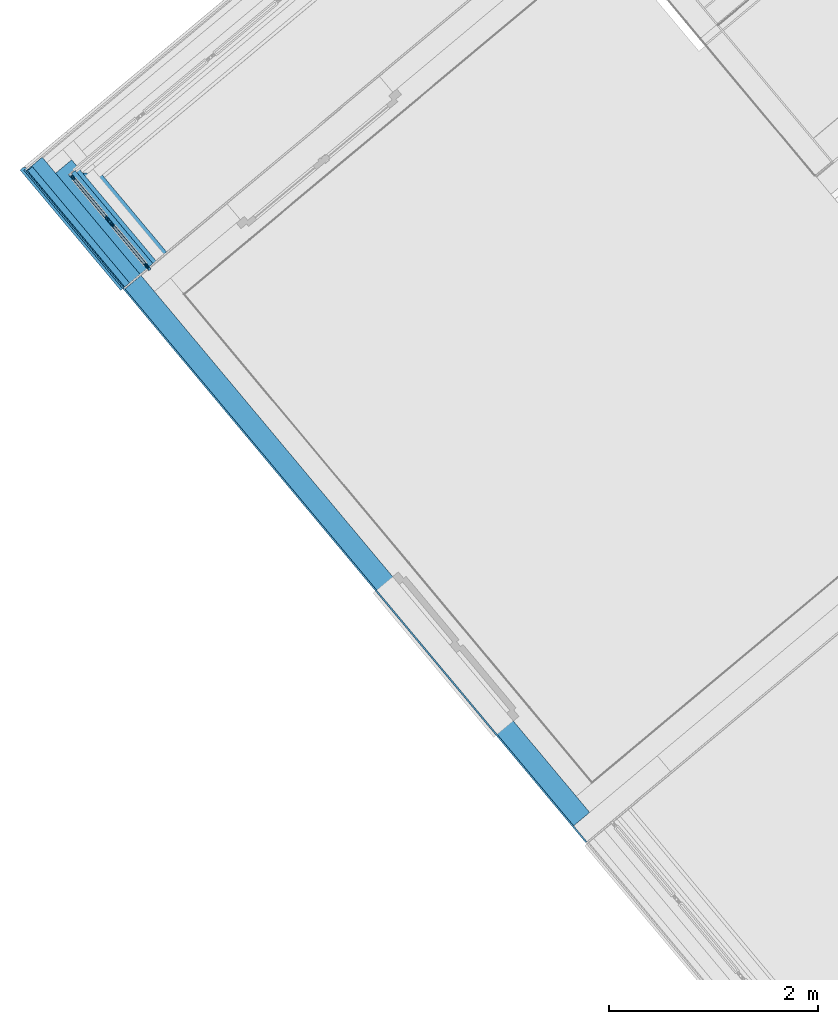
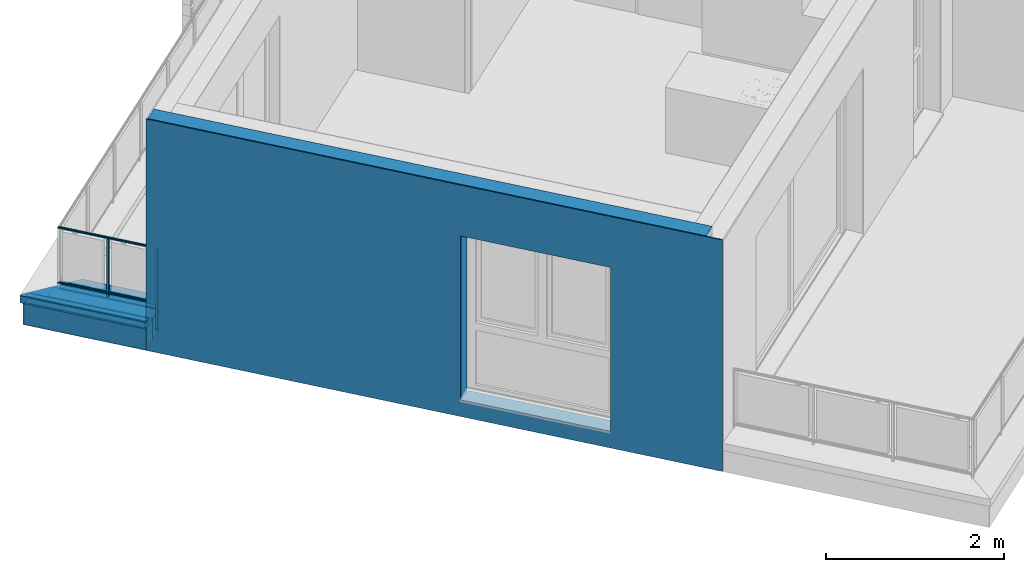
# One storey, part 11 of 47: 12 building element parts, 1 opening, 3 elements without a shape of their own.
"""IFC4 building model written with IfcOpenShell, lengths in metres."""

from ifc_helpers import new_model, entity, si_unit, converted_unit, derived_unit, direction, frame, origin_with_axes, place, context, subcontext, project, spatial, polygons, material, type_object, element, aggregate, save


model = new_model("IFC4")

# Units and contexts
model_context = context("Model", 3, precision=1e-05, world=origin_with_axes(), true_north=direction((0.0, 1.0)))
body_context = subcontext(model_context, "Body", "Model", "MODEL_VIEW")
ifc_project = project(units=[si_unit("LENGTHUNIT", "METRE"), si_unit("AREAUNIT", "SQUARE_METRE"), si_unit("VOLUMEUNIT", "CUBIC_METRE"), converted_unit("PLANEANGLEUNIT", "DEGREE", entity("IfcPlaneAngleMeasure", 0.0174532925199), si_unit("PLANEANGLEUNIT", "RADIAN"), dimensions=[0, 0, 0, 0, 0, 0, 0]), converted_unit("TIMEUNIT", "Year", entity("IfcTimeMeasure", 31556926.0), si_unit("TIMEUNIT", "SECOND"), dimensions=[0, 0, 1, 0, 0, 0, 0]), si_unit("MASSUNIT", "GRAM", prefix="KILO"), si_unit("THERMODYNAMICTEMPERATUREUNIT", "DEGREE_CELSIUS"), si_unit("LUMINOUSINTENSITYUNIT", "LUMEN"), si_unit("ENERGYUNIT", "JOULE", prefix="MEGA"), derived_unit("THERMALCONDUCTANCEUNIT", [(si_unit("POWERUNIT", "WATT"), 1), (si_unit("LENGTHUNIT", "METRE"), -1), (si_unit("THERMODYNAMICTEMPERATUREUNIT", "KELVIN"), -1)]), derived_unit("SPECIFICHEATCAPACITYUNIT", [(si_unit("ENERGYUNIT", "JOULE"), 1), (si_unit("MASSUNIT", "GRAM", prefix="KILO"), -1), (si_unit("THERMODYNAMICTEMPERATUREUNIT", "KELVIN"), -1)]), derived_unit("MASSDENSITYUNIT", [(si_unit("MASSUNIT", "GRAM", prefix="KILO"), 1), (si_unit("VOLUMEUNIT", "CUBIC_METRE"), -1)])], contexts=[model_context])

# Site, building, storey
site_placement = place(None, frame((-0.00153261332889, -0.00661245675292, 0.0), z_axis=(0.0, 0.0, 1.0), x_axis=(1.0, 0.0, 0.0)))
site = spatial("IfcSite", under=ifc_project, at=site_placement, Name="Site", CompositionType="ELEMENT")
building_placement = place(site_placement, origin_with_axes())
building = spatial("IfcBuilding", under=site, at=building_placement, Name="Building", CompositionType="ELEMENT")
storey_placement = place(building_placement, frame((0.0, 0.0, 8.66), z_axis=(0.0, 0.0, 1.0), x_axis=(1.0, 0.0, 0.0)))
storey = spatial("IfcBuildingStorey", under=building, at=storey_placement, Name="DG2", CompositionType="ELEMENT", Elevation=8.66)

# Wall, opening, building element parts
wall_type_1 = type_object("IfcWallType", Name="AW EG 420", PredefinedType="NOTDEFINED")
wall_1_placement = place(storey_placement, frame((-7.73758680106, 17.8868192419, 0.0), z_axis=(0.0, 0.0, 1.0), x_axis=(0.641209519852, -0.767365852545, 0.0)))
wall_1 = element("IfcWall", 1, at=wall_1_placement, inside=storey, type_object=wall_type_1, Name="Wand-002", PredefinedType="NOTDEFINED")
opening_placement = place(wall_1_placement, frame((4.66869995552, 0.0, 0.22), z_axis=(0.0, 0.0, 1.0), x_axis=(1.0, 0.0, 0.0)))
element("IfcOpeningElement", 2, at=opening_placement, cuts=wall_1, Name="Fenster-001", context=body_context, identifier="Reference", shape_type="Tessellation", body=[
    polygons([(0.9, 0.215, 0.0), (0.9, 0.215, 2.26), (0.9, -3.40708164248, 2.26), (0.9, -3.40708164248, 0.0), (0.9, 3.82708164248, 0.0), (0.9, 3.82708164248, 2.26), (-0.9, 0.215, 2.26), (-0.9, -3.40708164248, 2.26), (-0.9, 3.82708164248, 2.26), (-0.9, -3.40708164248, 0.0), (-0.9, 0.215, 0.0), (-0.9, 3.82708164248, 0.0)], [[[1, 2, 3, 4]], [[2, 1, 5, 6]], [[7, 8, 3, 2, 6, 9]], [[8, 10, 4, 3]], [[1, 4, 10, 11, 12, 5]], [[6, 5, 12, 9]], [[7, 11, 10, 8]], [[11, 7, 9, 12]]], closed=True),
])
ifc_material_1 = material(Name="EPS 1")
building_element_part_1_placement = place(wall_1_placement, origin_with_axes())
building_element_part_1 = element("IfcBuildingElementPart", 3, at=building_element_part_1_placement, material=ifc_material_1, Name="EPS 1", PredefinedType="NOTDEFINED", context=body_context, shape_type="Tessellation", body=[
    polygons([(6.70732534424, 0.015, 3.18), (0.0149999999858, 0.015, 3.18), (0.0149999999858, 0.015, 0.0), (6.70732534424, 0.015, 0.0), (3.76869995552, 0.015, 0.22), (3.76869995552, 0.015, 2.48), (5.56869995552, 0.015, 2.48), (5.56869995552, 0.015, 0.22), (6.70719509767, 0.215, 3.18), (0.0149999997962, 0.215, 3.18), (0.0149999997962, 0.215, 0.0), (6.70719509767, 0.215, 0.0), (3.76869995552, 0.215, 0.22), (3.76869995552, 0.215, 2.48), (5.56869995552, 0.215, 2.48), (5.56869995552, 0.215, 0.22)], [[[1, 2, 3, 4], [5, 6, 7, 8]], [[9, 10, 2, 1]], [[11, 3, 2, 10]], [[4, 3, 11, 12]], [[12, 9, 1, 4]], [[13, 14, 6, 5]], [[14, 15, 7, 6]], [[15, 16, 8, 7]], [[16, 13, 5, 8]], [[12, 11, 10, 9], [13, 16, 15, 14]]], closed=True),
])
ifc_material_2 = material(Name="Zementputz")
building_element_part_2_placement = place(wall_1_placement, origin_with_axes())
building_element_part_2 = element("IfcBuildingElementPart", 4, at=building_element_part_2_placement, material=ifc_material_2, Name="Zementputz", PredefinedType="NOTDEFINED", context=body_context, shape_type="Tessellation", body=[
    polygons([(6.90733515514, 0.0, 3.18), (0.0, 0.0, 3.18), (0.0, 0.0, 0.0), (6.90733515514, 0.0, 0.0), (3.76869995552, 0.0, 0.22), (3.76869995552, 0.0, 2.48), (5.56869995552, 0.0, 2.48), (5.56869995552, 0.0, 0.22), (6.90732538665, 0.015, 3.18), (0.0, 0.015, 3.18), (0.0, 0.015, 0.0), (6.90732538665, 0.015, 0.0), (3.76869995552, 0.015, 0.22), (3.76869995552, 0.015, 2.48), (5.56869995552, 0.015, 2.48), (5.56869995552, 0.015, 0.22)], [[[1, 2, 3, 4], [5, 6, 7, 8]], [[9, 10, 2, 1]], [[11, 3, 2, 10]], [[4, 3, 11, 12]], [[12, 9, 1, 4]], [[13, 14, 6, 5]], [[14, 15, 7, 6]], [[15, 16, 8, 7]], [[16, 13, 5, 8]], [[12, 11, 10, 9], [13, 16, 15, 14]]], closed=True),
])
aggregate(wall_1, [building_element_part_1, building_element_part_2])

# Wall, building element parts
wall_type_2 = type_object("IfcWallType", Name="Bauteil - Attika Terrasse 1.DG 574 x 410", PredefinedType="NOTDEFINED")
wall_2_placement = place(storey_placement, frame((-7.57260314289, 18.0246792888, -0.2), z_axis=(0.0, 0.0, 1.0), x_axis=(-0.641209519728, 0.767365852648, 0.0)))
wall_2 = element("IfcWall", 5, at=wall_2_placement, inside=storey, type_object=wall_type_2, Name="Wand-004", PredefinedType="NOTDEFINED")
building_element_part_3_placement = place(wall_2_placement, origin_with_axes())
building_element_part_3 = element("IfcBuildingElementPart", 6, at=building_element_part_3_placement, material=ifc_material_2, Name="Zementputz", PredefinedType="NOTDEFINED", context=body_context, shape_type="Tessellation", body=[
    polygons([(1.47453762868, 0.199999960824, 0.2), (1.47453762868, 0.199999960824, 0.499999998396), (0.0, 0.199999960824, 0.499999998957), (0.0, 0.199999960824, 0.2), (1.47453762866, 0.214999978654, 0.2), (1.47453762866, 0.214999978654, 0.499999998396), (0.0, 0.214999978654, 0.499999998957), (0.0, 0.214999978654, 0.2)], [[[1, 2, 3, 4]], [[2, 1, 5, 6]], [[2, 6, 7, 3]], [[4, 3, 7, 8]], [[5, 1, 4, 8]], [[6, 5, 8, 7]]], closed=True),
])
ifc_material_3 = material(Name="Vollholz")
building_element_part_4_placement = place(wall_2_placement, origin_with_axes())
building_element_part_4 = element("IfcBuildingElementPart", 7, at=building_element_part_4_placement, material=ifc_material_3, Name="Vollholz", PredefinedType="NOTDEFINED", context=body_context, shape_type="Tessellation", body=[
    polygons([(1.44953379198, 0.189996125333, 0.584015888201), (1.44953379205, 0.130124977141, 0.584015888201), (1.44957690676, 0.130124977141, 0.575979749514), (1.4495769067, 0.190039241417, 0.575979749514), (1.44952269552, 0.189984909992, 0.58610624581), (0.0, 0.130124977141, 0.584015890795), (0.0, 0.130124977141, 0.560000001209), (1.44966263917, 0.130124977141, 0.559999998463), (1.44961999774, 0.130124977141, 0.567947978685), (1.44958816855, 0.130124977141, 0.573880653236), (1.44958816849, 0.190050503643, 0.573880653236), (1.44961999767, 0.190082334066, 0.567947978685), (1.44966263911, 0.190124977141, 0.559999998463), (0.0, 0.190124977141, 0.560000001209), (0.0, 0.189984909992, 0.586106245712)], [[[1, 2, 3, 4]], [[5, 2, 1]], [[3, 2, 6, 7, 8, 9, 10]], [[4, 3, 10, 11]], [[5, 1, 4, 11, 12, 13, 14, 15]], [[2, 5, 15, 6]], [[6, 15, 14, 7]], [[13, 8, 7, 14]], [[12, 9, 8, 13]], [[11, 10, 9, 12]]], closed=True),
])
building_element_part_5_placement = place(wall_2_placement, origin_with_axes())
building_element_part_5 = element("IfcBuildingElementPart", 8, at=building_element_part_5_placement, material=ifc_material_1, Name="EPS 1", PredefinedType="NOTDEFINED", context=body_context, shape_type="Tessellation", body=[
    polygons([(1.45953762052, 2.39911202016e-10, 0.498822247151), (1.45953762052, 2.39911202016e-10, 0.499999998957), (0.0, 2.39910313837e-10, 0.499999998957), (0.0, 2.39910313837e-10, 0.2), (1.45953762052, 2.39911202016e-10, 0.2), (1.45953762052, 2.39911202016e-10, 0.335), (1.45953762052, 2.39911202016e-10, 0.488695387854), (1.45953762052, 2.39911202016e-10, 0.49100648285), (1.45953762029, 0.19999996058, 0.499999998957), (1.45953762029, 0.19999996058, 0.498822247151), (0.0, 0.19999996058, 0.499999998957), (0.0, 0.19999996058, 0.2), (1.45953762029, 0.19999996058, 0.2), (1.45953762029, 0.19999996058, 0.335), (1.45953762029, 0.19999996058, 0.488695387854), (1.45953762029, 0.19999996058, 0.49100648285)], [[[1, 2, 3, 4, 5, 6, 7, 8]], [[9, 2, 1, 10]], [[2, 9, 11, 3]], [[4, 3, 11, 12]], [[13, 5, 4, 12]], [[14, 6, 5, 13]], [[15, 7, 6, 14]], [[16, 8, 7, 15]], [[10, 1, 8, 16]], [[9, 10, 16, 15, 14, 13, 12, 11]]], closed=True),
])
ifc_material_4 = material(Name="Stahlbeton")
building_element_part_6_placement = place(wall_2_placement, origin_with_axes())
building_element_part_6 = element("IfcBuildingElementPart", 9, at=building_element_part_6_placement, material=ifc_material_4, Name="Stahlbeton", PredefinedType="NOTDEFINED", context=body_context, shape_type="Tessellation", body=[
    polygons([(1.25953766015, -0.199999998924, 0.498822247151), (1.25953766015, -0.199999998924, 0.499999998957), (0.0, -0.199999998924, 0.500000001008), (0.0, -0.199999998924, 0.335000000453), (1.25953766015, -0.199999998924, 0.335), (1.25953766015, -0.199999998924, 0.488695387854), (1.25953766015, -0.199999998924, 0.49100648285), (1.25953765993, -1.82835613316e-09, 0.499999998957), (1.25953765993, -1.82835613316e-09, 0.498822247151), (0.0, -1.82835524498e-09, 0.500000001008), (0.0, -1.82835524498e-09, 0.2), (0.0, -0.199999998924, 0.2), (1.25953766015, -0.199999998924, 0.2), (1.25953765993, -1.82835613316e-09, 0.488695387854), (1.25953765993, -1.82835613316e-09, 0.335), (1.25953765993, -1.82835613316e-09, 0.49100648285), (1.25953765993, -1.82835613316e-09, 0.2)], [[[1, 2, 3, 4, 5, 6, 7]], [[8, 2, 1, 9]], [[2, 8, 10, 3]], [[4, 3, 10, 11, 12]], [[13, 5, 4, 12]], [[14, 6, 5, 15]], [[16, 7, 6, 14]], [[9, 1, 7, 16]], [[8, 9, 16, 14, 15, 17, 11, 10]], [[17, 13, 12, 11]], [[15, 5, 13, 17]]], closed=True),
])
building_element_part_7_placement = place(wall_2_placement, origin_with_axes())
building_element_part_7 = element("IfcBuildingElementPart", 10, at=building_element_part_7_placement, material=ifc_material_3, Name="Vollholz", PredefinedType="NOTDEFINED", context=body_context, shape_type="Tessellation", body=[
    polygons([(1.15953766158, -0.1, 0.573880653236), (1.15953766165, -0.160110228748, 0.573880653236), (1.15953766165, -0.160063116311, 0.567947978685), (1.15953766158, -0.1, 0.567947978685), (1.15953766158, -0.1, 0.575979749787), (0.0, -0.160110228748, 0.573880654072), (0.0, -0.16, 0.560000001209), (1.15953766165, -0.16, 0.559999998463), (1.15953766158, -0.1, 0.559999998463), (0.0, -0.1, 0.560000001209), (0.0, -0.1, 0.575979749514)], [[[1, 2, 3, 4]], [[5, 2, 1]], [[3, 2, 6, 7, 8]], [[4, 3, 8, 9]], [[5, 1, 4, 9, 10, 11]], [[2, 5, 11, 6]], [[6, 11, 10, 7]], [[9, 8, 7, 10]]], closed=True),
])
ifc_material_5 = material(Name="Stahl")
building_element_part_8_placement = place(wall_2_placement, origin_with_axes())
building_element_part_8 = element("IfcBuildingElementPart", 11, at=building_element_part_8_placement, material=ifc_material_5, Name="Stahl", PredefinedType="NOTDEFINED", context=body_context, shape_type="Tessellation", body=[
    polygons([(1.5000806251, 0.240542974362, 0.50905023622), (1.50103791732, 0.241500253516, 0.510007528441), (1.50103791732, 0.239585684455, 0.510007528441), (0.0, 0.240542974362, 0.509050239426), (0.0, 0.241500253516, 0.510007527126), (1.50103791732, 0.241500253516, 0.610006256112), (1.50103791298, 0.202730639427, 0.608602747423), (1.50103791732, 0.240152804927, 0.608602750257), (1.50103791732, 0.240146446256, 0.51136132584), (1.50103791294, 0.238231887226, 0.511361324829), (1.49968410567, 0.23823188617, 0.511361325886), (1.49282563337, 0.231373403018, 0.518219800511), (0.0, 0.231373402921, 0.518219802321), (0.0, 0.232283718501, 0.519224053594), (0.0, 0.240146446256, 0.51136132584), (0.0, 0.240152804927, 0.608602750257), (0.0, 0.239276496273, 0.608570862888), (0.0, -0.330698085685, 0.587937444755), (0.0, -0.330698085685, 0.491006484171), (0.0, -0.32288233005, 0.498822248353), (0.0, -0.321878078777, 0.497911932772), (0.0, -0.331094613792, 0.488695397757), (0.0, -0.332051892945, 0.489652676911), (0.0, -0.332051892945, 0.589243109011), (0.0, 0.241500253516, 0.610006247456), (0.96487686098, -0.332051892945, 0.589243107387), (1.49881415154, 0.201849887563, 0.608570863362), (1.49969046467, 0.202730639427, 0.608602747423), (1.49969046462, 0.240152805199, 0.608602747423), (1.49968410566, 0.240146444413, 0.511361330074), (1.49182138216, 0.232283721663, 0.519224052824), (1.4988141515, 0.239276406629, 0.608570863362), (0.928839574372, -0.330665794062, 0.587938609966), (0.928839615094, -0.330698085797, 0.587937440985), (0.928839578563, -0.330698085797, 0.586106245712), (0.928839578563, -0.330698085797, 0.584015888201), (0.928839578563, -0.330698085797, 0.575979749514), (0.928839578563, -0.330698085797, 0.573880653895), (0.928839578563, -0.330698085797, 0.567947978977), (0.928839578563, -0.330698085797, 0.559999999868), (0.928839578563, -0.330698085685, 0.519224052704), (0.928839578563, -0.330698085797, 0.511361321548), (0.928839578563, -0.330698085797, 0.50905024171), (0.928839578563, -0.330698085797, 0.499999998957), (0.928839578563, -0.330698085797, 0.498822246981), (0.928839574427, -0.330698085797, 0.491006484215), (0.930754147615, -0.330698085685, 0.491006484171), (0.937659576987, -0.323792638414, 0.497911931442), (0.93665532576, -0.32288233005, 0.498822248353), (0.937659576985, -0.321878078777, 0.497911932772), (0.930754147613, -0.328783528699, 0.49100648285), (0.9284430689, -0.331094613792, 0.488695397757), (0.929400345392, -0.332051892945, 0.489652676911), (0.930754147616, -0.332051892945, 0.49100648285), (0.928839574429, -0.332051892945, 0.491006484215), (0.928839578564, -0.332051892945, 0.498822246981), (0.928839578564, -0.332051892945, 0.499999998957), (0.928839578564, -0.332051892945, 0.50905024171), (0.928839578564, -0.332051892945, 0.511361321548), (0.928839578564, -0.332051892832, 0.519224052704), (0.928839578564, -0.332051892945, 0.559999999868), (0.928839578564, -0.332051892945, 0.567947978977), (0.928839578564, -0.332051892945, 0.573880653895), (0.928839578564, -0.332051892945, 0.575979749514), (0.928839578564, -0.332051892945, 0.584015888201), (0.928839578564, -0.332051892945, 0.586106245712), (0.928839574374, -0.332051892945, 0.587938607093)], [[[1, 2, 3]], [[2, 1, 4, 5]], [[3, 2, 6, 7, 8, 9, 10]], [[1, 3, 10, 11, 12, 13, 4]], [[5, 4, 13, 14, 15, 16, 17, 18, 19, 20, 21, 22, 23, 24, 25]], [[6, 2, 5, 25]], [[26, 27, 28, 7, 6, 25, 24]], [[29, 8, 7, 28]], [[30, 9, 8, 29, 16, 15]], [[9, 30, 11, 10]], [[30, 31, 12, 11]], [[12, 31, 14, 13]], [[31, 30, 15, 14]], [[29, 32, 17, 16]], [[32, 33, 34, 18, 17]], [[18, 34, 35, 36, 37, 38, 39, 40, 41, 42, 43, 44, 45, 46, 19]], [[47, 48, 49, 20, 19, 46]], [[49, 50, 21, 20]], [[50, 51, 52, 22, 21]], [[52, 53, 23, 22]], [[53, 54, 55, 56, 57, 58, 59, 60, 61, 62, 63, 64, 65, 66, 67, 26, 24, 23]], [[33, 32, 27, 26, 67, 34]], [[32, 29, 28, 27]], [[35, 34, 67, 66]], [[36, 35, 66, 65]], [[37, 36, 65, 64]], [[38, 37, 64, 63]], [[39, 38, 63, 62]], [[40, 39, 62, 61]], [[40, 61, 60, 41]], [[42, 41, 60, 59]], [[43, 42, 59, 58]], [[44, 43, 58, 57]], [[56, 45, 44, 57]], [[46, 45, 56, 55]], [[48, 47, 51, 50]], [[48, 50, 49]], [[47, 46, 55, 54]], [[51, 47, 54, 53, 52]]], closed=True),
])
aggregate(wall_2, [building_element_part_3, building_element_part_4, building_element_part_5, building_element_part_6, building_element_part_7, building_element_part_8])

# Railing, building element parts
railing_type = type_object("IfcRailingType", Name="Geländerart", PredefinedType="NOTDEFINED")
railing_placement = place(storey_placement, frame((-7.40951182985, 18.1414107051, 0.38), z_axis=(0.0, 0.0, 1.0), x_axis=(1.0, 0.0, 0.0)))
railing = element("IfcRailing", 12, at=railing_placement, inside=storey, type_object=railing_type, Name="Geländer - 001", PredefinedType="NOTDEFINED")
ifc_material_6 = material(Name="Aluminium")
building_element_part_9_placement = place(railing_placement, origin_with_axes())
building_element_part_9 = element("IfcBuildingElementPart", 13, at=building_element_part_9_placement, material=ifc_material_6, Name="Aluminium", PredefinedType="NOTDEFINED", context=body_context, shape_type="Tessellation", body=[
    polygons([(-0.0751596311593, -0.0465137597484, -0.3), (-0.0943437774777, -0.0625439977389, -0.3), (-0.0943437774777, -0.0625439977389, 0.82), (-0.0751596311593, -0.0465137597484, 0.82), (-0.0591293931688, -0.0656979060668, -0.3), (-0.0783135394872, -0.0817281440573, -0.3), (-0.0783135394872, -0.0817281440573, 0.82), (-0.0591293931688, -0.0656979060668, 0.82)], [[[1, 2, 3, 4]], [[1, 5, 6, 2]], [[2, 6, 7, 3]], [[4, 3, 7, 8]], [[5, 1, 4, 8]], [[6, 5, 8, 7]]], closed=True),
])
building_element_part_10_placement = place(railing_placement, origin_with_axes())
building_element_part_10 = element("IfcBuildingElementPart", 14, at=building_element_part_10_placement, material=ifc_material_6, Name="Aluminium", PredefinedType="NOTDEFINED", context=body_context, shape_type="Tessellation", body=[
    polygons([(-0.0882470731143, -0.0737390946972, 0.825), (-0.0880722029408, -0.0735929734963, 0.827604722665), (-0.850668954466, 0.839042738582, 0.827604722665), (-0.850989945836, 0.83907148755, 0.825), (-0.0880722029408, -0.0735929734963, 0.822395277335), (-0.0875529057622, -0.0731590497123, 0.81986969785), (-0.0867049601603, -0.0724505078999, 0.8175), (-0.0855541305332, -0.0714888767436, 0.815358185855), (-0.0841353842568, -0.0703033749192, 0.813509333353), (-0.0824918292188, -0.0689300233, 0.812009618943), (-0.0806734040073, -0.0674105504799, 0.810904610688), (-0.0787353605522, -0.0657911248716, 0.810227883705), (-0.0767365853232, -0.0641209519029, 0.81), (-0.0747378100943, -0.0624507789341, 0.810227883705), (-0.0727997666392, -0.0608313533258, 0.810904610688), (-0.0709813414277, -0.0593118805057, 0.812009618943), (-0.0693377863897, -0.0579385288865, 0.813509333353), (-0.0679190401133, -0.0567530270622, 0.815358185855), (-0.0667682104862, -0.0557913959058, 0.8175), (-0.0659202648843, -0.0550828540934, 0.81986969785), (-0.0654009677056, -0.0546489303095, 0.822395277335), (-0.0652260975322, -0.0545028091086, 0.825), (-0.0654009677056, -0.0546489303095, 0.827604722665), (-0.0659202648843, -0.0550828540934, 0.83013030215), (-0.0667682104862, -0.0557913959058, 0.8325), (-0.0679190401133, -0.0567530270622, 0.834641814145), (-0.0693377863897, -0.0579385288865, 0.836490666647), (-0.0709813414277, -0.0593118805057, 0.837990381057), (-0.0727997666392, -0.0608313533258, 0.839095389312), (-0.0747378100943, -0.0624507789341, 0.839772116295), (-0.0767365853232, -0.0641209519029, 0.84), (-0.0787353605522, -0.0657911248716, 0.839772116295), (-0.0806734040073, -0.0674105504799, 0.839095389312), (-0.0824918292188, -0.0689300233, 0.837990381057), (-0.0841353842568, -0.0703033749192, 0.836490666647), (-0.0855541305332, -0.0714888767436, 0.834641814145), (-0.0867049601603, -0.0724505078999, 0.8325), (-0.0875529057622, -0.0731590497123, 0.83013030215), (-0.849715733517, 0.838957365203, 0.83013030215), (-0.848159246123, 0.838817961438, 0.8325), (-0.846046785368, 0.838628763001, 0.834641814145), (-0.843442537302, 0.838395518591, 0.836490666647), (-0.840425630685, 0.83812531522, 0.837990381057), (-0.837087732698, 0.837826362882, 0.839095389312), (-0.833530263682, 0.837507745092, 0.839772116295), (-0.829861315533, 0.837179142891, 0.84), (-0.826192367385, 0.836850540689, 0.839772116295), (-0.822634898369, 0.836531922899, 0.839095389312), (-0.819297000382, 0.836232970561, 0.837990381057), (-0.816280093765, 0.835962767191, 0.836490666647), (-0.813675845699, 0.83572952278, 0.834641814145), (-0.811563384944, 0.835540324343, 0.8325), (-0.81000689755, 0.835400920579, 0.83013030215), (-0.8090536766, 0.835315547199, 0.827604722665), (-0.80873268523, 0.835286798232, 0.825), (-0.8090536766, 0.835315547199, 0.822395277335), (-0.81000689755, 0.835400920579, 0.81986969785), (-0.811563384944, 0.835540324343, 0.8175), (-0.813675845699, 0.83572952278, 0.815358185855), (-0.816280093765, 0.835962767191, 0.813509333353), (-0.819297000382, 0.836232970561, 0.812009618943), (-0.822634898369, 0.836531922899, 0.810904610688), (-0.826192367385, 0.836850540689, 0.810227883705), (-0.829861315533, 0.837179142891, 0.81), (-0.833530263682, 0.837507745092, 0.810227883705), (-0.837087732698, 0.837826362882, 0.810904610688), (-0.840425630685, 0.83812531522, 0.812009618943), (-0.843442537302, 0.838395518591, 0.813509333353), (-0.846046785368, 0.838628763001, 0.815358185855), (-0.848159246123, 0.838817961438, 0.8175), (-0.849715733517, 0.838957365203, 0.81986969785), (-0.850668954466, 0.839042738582, 0.822395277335)], [[[1, 2, 3, 4]], [[1, 5, 6, 7, 8, 9, 10, 11, 12, 13, 14, 15, 16, 17, 18, 19, 20, 21, 22, 23, 24, 25, 26, 27, 28, 29, 30, 31, 32, 33, 34, 35, 36, 37, 38, 2]], [[2, 38, 39, 3]], [[4, 3, 39, 40, 41, 42, 43, 44, 45, 46, 47, 48, 49, 50, 51, 52, 53, 54, 55, 56, 57, 58, 59, 60, 61, 62, 63, 64, 65, 66, 67, 68, 69, 70, 71, 72]], [[5, 1, 4, 72]], [[6, 5, 72, 71]], [[7, 6, 71, 70]], [[8, 7, 70, 69]], [[9, 8, 69, 68]], [[10, 9, 68, 67]], [[11, 10, 67, 66]], [[12, 11, 66, 65]], [[13, 12, 65, 64]], [[14, 13, 64, 63]], [[15, 14, 63, 62]], [[16, 15, 62, 61]], [[17, 16, 61, 60]], [[18, 17, 60, 59]], [[19, 18, 59, 58]], [[20, 19, 58, 57]], [[21, 20, 57, 56]], [[22, 21, 56, 55]], [[23, 22, 55, 54]], [[24, 23, 54, 53]], [[25, 24, 53, 52]], [[26, 25, 52, 51]], [[27, 26, 51, 50]], [[28, 27, 50, 49]], [[29, 28, 49, 48]], [[30, 29, 48, 47]], [[31, 30, 47, 46]], [[32, 31, 46, 45]], [[33, 32, 45, 44]], [[34, 33, 44, 43]], [[35, 34, 43, 42]], [[36, 35, 42, 41]], [[37, 36, 41, 40]], [[38, 37, 40, 39]]], closed=True),
])
building_element_part_11_placement = place(railing_placement, origin_with_axes())
building_element_part_11 = element("IfcBuildingElementPart", 15, at=building_element_part_11_placement, material=ifc_material_6, Name="Aluminium", PredefinedType="NOTDEFINED", context=body_context, shape_type="Tessellation", body=[
    polygons([(-0.0882470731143, -0.0737390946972, 0.07), (-0.0880722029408, -0.0735929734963, 0.072604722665), (-0.850668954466, 0.839042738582, 0.072604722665), (-0.850989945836, 0.83907148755, 0.07), (-0.0880722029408, -0.0735929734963, 0.067395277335), (-0.0875529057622, -0.0731590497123, 0.0648696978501), (-0.0867049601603, -0.0724505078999, 0.0625), (-0.0855541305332, -0.0714888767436, 0.0603581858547), (-0.0841353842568, -0.0703033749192, 0.0585093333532), (-0.0824918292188, -0.0689300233, 0.0570096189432), (-0.0806734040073, -0.0674105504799, 0.0559046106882), (-0.0787353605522, -0.0657911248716, 0.0552278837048), (-0.0767365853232, -0.0641209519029, 0.055), (-0.0747378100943, -0.0624507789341, 0.0552278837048), (-0.0727997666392, -0.0608313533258, 0.0559046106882), (-0.0709813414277, -0.0593118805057, 0.0570096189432), (-0.0693377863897, -0.0579385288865, 0.0585093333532), (-0.0679190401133, -0.0567530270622, 0.0603581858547), (-0.0667682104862, -0.0557913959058, 0.0625), (-0.0659202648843, -0.0550828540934, 0.0648696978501), (-0.0654009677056, -0.0546489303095, 0.067395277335), (-0.0652260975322, -0.0545028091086, 0.07), (-0.0654009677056, -0.0546489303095, 0.072604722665), (-0.0659202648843, -0.0550828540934, 0.0751303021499), (-0.0667682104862, -0.0557913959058, 0.0775), (-0.0679190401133, -0.0567530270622, 0.0796418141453), (-0.0693377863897, -0.0579385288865, 0.0814906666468), (-0.0709813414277, -0.0593118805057, 0.0829903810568), (-0.0727997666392, -0.0608313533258, 0.0840953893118), (-0.0747378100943, -0.0624507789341, 0.0847721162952), (-0.0767365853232, -0.0641209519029, 0.085), (-0.0787353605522, -0.0657911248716, 0.0847721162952), (-0.0806734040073, -0.0674105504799, 0.0840953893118), (-0.0824918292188, -0.0689300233, 0.0829903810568), (-0.0841353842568, -0.0703033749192, 0.0814906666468), (-0.0855541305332, -0.0714888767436, 0.0796418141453), (-0.0867049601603, -0.0724505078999, 0.0775), (-0.0875529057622, -0.0731590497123, 0.0751303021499), (-0.849715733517, 0.838957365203, 0.0751303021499), (-0.848159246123, 0.838817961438, 0.0775), (-0.846046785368, 0.838628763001, 0.0796418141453), (-0.843442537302, 0.838395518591, 0.0814906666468), (-0.840425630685, 0.83812531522, 0.0829903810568), (-0.837087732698, 0.837826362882, 0.0840953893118), (-0.833530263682, 0.837507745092, 0.0847721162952), (-0.829861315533, 0.837179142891, 0.085), (-0.826192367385, 0.836850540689, 0.0847721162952), (-0.822634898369, 0.836531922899, 0.0840953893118), (-0.819297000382, 0.836232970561, 0.0829903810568), (-0.816280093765, 0.835962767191, 0.0814906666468), (-0.813675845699, 0.83572952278, 0.0796418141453), (-0.811563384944, 0.835540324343, 0.0775), (-0.81000689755, 0.835400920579, 0.0751303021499), (-0.8090536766, 0.835315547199, 0.072604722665), (-0.80873268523, 0.835286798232, 0.07), (-0.8090536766, 0.835315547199, 0.067395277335), (-0.81000689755, 0.835400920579, 0.0648696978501), (-0.811563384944, 0.835540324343, 0.0625), (-0.813675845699, 0.83572952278, 0.0603581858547), (-0.816280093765, 0.835962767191, 0.0585093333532), (-0.819297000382, 0.836232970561, 0.0570096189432), (-0.822634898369, 0.836531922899, 0.0559046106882), (-0.826192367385, 0.836850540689, 0.0552278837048), (-0.829861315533, 0.837179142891, 0.055), (-0.833530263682, 0.837507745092, 0.0552278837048), (-0.837087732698, 0.837826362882, 0.0559046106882), (-0.840425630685, 0.83812531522, 0.0570096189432), (-0.843442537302, 0.838395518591, 0.0585093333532), (-0.846046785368, 0.838628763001, 0.0603581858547), (-0.848159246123, 0.838817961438, 0.0625), (-0.849715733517, 0.838957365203, 0.0648696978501), (-0.850668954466, 0.839042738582, 0.067395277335)], [[[1, 2, 3, 4]], [[1, 5, 6, 7, 8, 9, 10, 11, 12, 13, 14, 15, 16, 17, 18, 19, 20, 21, 22, 23, 24, 25, 26, 27, 28, 29, 30, 31, 32, 33, 34, 35, 36, 37, 38, 2]], [[2, 38, 39, 3]], [[4, 3, 39, 40, 41, 42, 43, 44, 45, 46, 47, 48, 49, 50, 51, 52, 53, 54, 55, 56, 57, 58, 59, 60, 61, 62, 63, 64, 65, 66, 67, 68, 69, 70, 71, 72]], [[5, 1, 4, 72]], [[6, 5, 72, 71]], [[7, 6, 71, 70]], [[8, 7, 70, 69]], [[9, 8, 69, 68]], [[10, 9, 68, 67]], [[11, 10, 67, 66]], [[12, 11, 66, 65]], [[13, 12, 65, 64]], [[14, 13, 64, 63]], [[15, 14, 63, 62]], [[16, 15, 62, 61]], [[17, 16, 61, 60]], [[18, 17, 60, 59]], [[19, 18, 59, 58]], [[20, 19, 58, 57]], [[21, 20, 57, 56]], [[22, 21, 56, 55]], [[23, 22, 55, 54]], [[24, 23, 54, 53]], [[25, 24, 53, 52]], [[26, 25, 52, 51]], [[27, 26, 51, 50]], [[28, 27, 50, 49]], [[29, 28, 49, 48]], [[30, 29, 48, 47]], [[31, 30, 47, 46]], [[32, 31, 46, 45]], [[33, 32, 45, 44]], [[34, 33, 44, 43]], [[35, 34, 43, 42]], [[36, 35, 42, 41]], [[37, 36, 41, 40]], [[38, 37, 40, 39]]], closed=True),
])
building_element_part_12_placement = place(railing_placement, origin_with_axes())
building_element_part_12 = element("IfcBuildingElementPart", 16, at=building_element_part_12_placement, material=ifc_material_6, Name="Aluminium", PredefinedType="NOTDEFINED", context=body_context, shape_type="Tessellation", body=[
    polygons([(-0.451721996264, 0.404136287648, -0.3), (-0.470906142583, 0.388106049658, -0.3), (-0.470906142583, 0.388106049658, 0.82), (-0.451721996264, 0.404136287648, 0.82), (-0.435691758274, 0.38495214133, -0.3), (-0.454875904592, 0.368921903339, -0.3), (-0.454875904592, 0.368921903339, 0.82), (-0.435691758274, 0.38495214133, 0.82)], [[[1, 2, 3, 4]], [[1, 5, 6, 2]], [[2, 6, 7, 3]], [[4, 3, 7, 8]], [[5, 1, 4, 8]], [[6, 5, 8, 7]]], closed=True),
])
aggregate(railing, [building_element_part_9, building_element_part_10, building_element_part_11, building_element_part_12])

save(model, "model.ifc")
